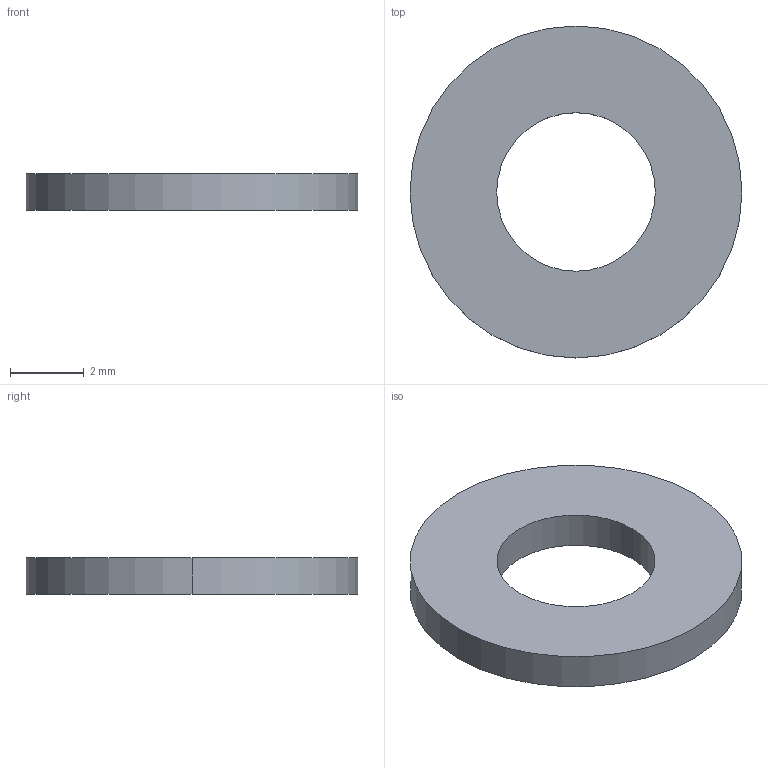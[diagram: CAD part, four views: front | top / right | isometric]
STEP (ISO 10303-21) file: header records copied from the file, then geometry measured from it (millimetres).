
FILE_DESCRIPTION (( 'STEP AP214' ), '1' );
FILE_NAME ('座金B M4_1mm厚.STEP', '2024-06-18T04:54:17', ( '' ), ( '' ), 'SwSTEP 2.0', 'SolidWorks 2023', '' );
FILE_SCHEMA (( 'AUTOMOTIVE_DESIGN' ));
Length unit declared in the file: millimetre
Products named in the file (1): 座金B M4_1mm厚
Bounding box: 9 x 9 x 1 mm (x, y, z)
Volume: 49.1 mm3; surface area: 140 mm2
Topology: 1 solids, 1 shells, 6 faces, 12 edges, 8 vertices
Faces by surface type: cylinder 4, plane 2
Entity records: 191 total; most frequent: DIRECTION 34, CARTESIAN_POINT 27, ORIENTED_EDGE 24, AXIS2_PLACEMENT_3D 15, EDGE_CURVE 12, VERTEX_POINT 8, EDGE_LOOP 8, CIRCLE 8
